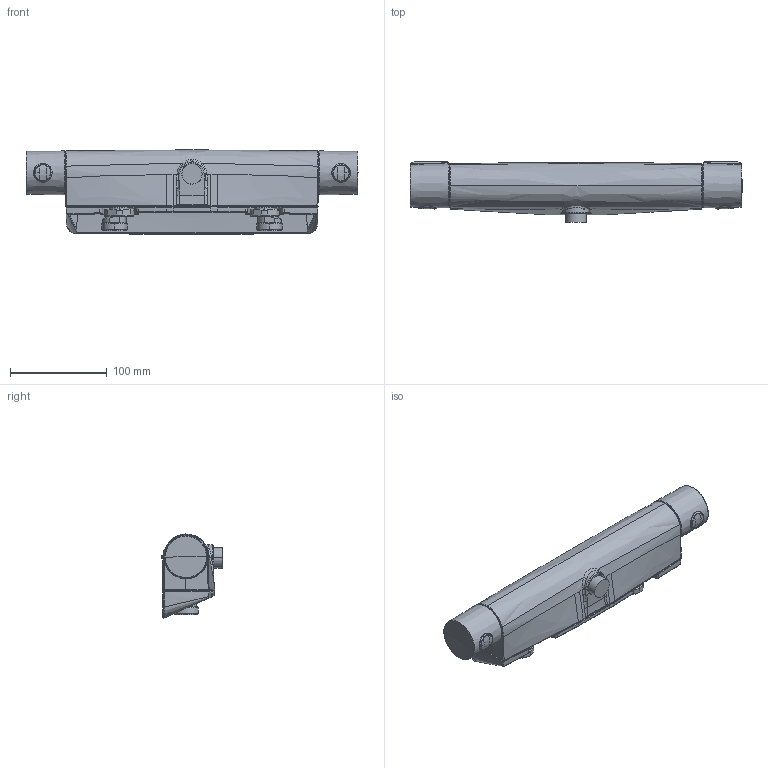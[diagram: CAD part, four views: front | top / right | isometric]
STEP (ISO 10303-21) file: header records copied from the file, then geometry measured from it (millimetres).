
FILE_DESCRIPTION (( 'STEP AP203' ), '1' );
FILE_NAME ('7150N(2023)+7150N-33(2023).STEP', '2022-12-19T12:52:46', ( '' ), ( '' ), 'SwSTEP 2.0', 'SolidWorks 2016', '' );
FILE_SCHEMA (( 'CONFIG_CONTROL_DESIGN' ));
Length unit declared in the file: millimetre
Products named in the file (1): 7150N(2023)+7150N-33(2023)
Bounding box: 342.5 x 62.9 x 86.92 mm (x, y, z)
Surface area: 118168.2 mm2 (no closed solid volume)
Topology: 0 solids, 2 shells, 581 faces, 1426 edges, 853 vertices
Faces by surface type: bspline 354, cylinder 95, plane 70, cone 54, sphere 6, torus 2
Full cylindrical faces by diameter (mm): 18.6 x2
Entity records: 38085 total; most frequent: CARTESIAN_POINT 27141, ORIENTED_EDGE 2820, DIRECTION 1451, EDGE_CURVE 1412, VERTEX_POINT 855, B_SPLINE_CURVE_WITH_KNOTS 730, EDGE_LOOP 607, AXIS2_PLACEMENT_3D 607
